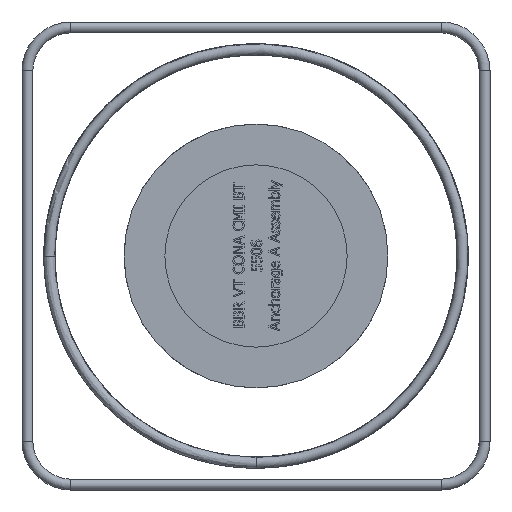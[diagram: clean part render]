
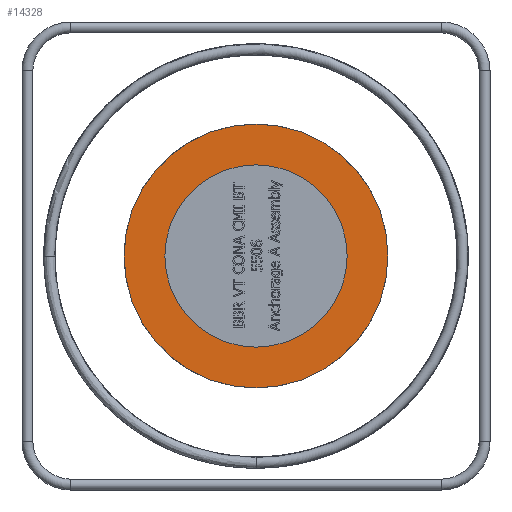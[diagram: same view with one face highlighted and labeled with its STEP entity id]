
A CAD part, left-side view. The second image highlights one B-rep face of the part: STEP entity #14328.
In plain terms, the highlighted planar face has unit normal (-1, 0, 0).
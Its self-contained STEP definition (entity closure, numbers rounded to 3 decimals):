
#3473=PLANE('',#14865);
#3634=FACE_BOUND('',#5253,.T.);
#4379=FACE_OUTER_BOUND('',#5252,.T.);
#5252=EDGE_LOOP('',(#12314));
#5253=EDGE_LOOP('',(#12315));
#5564=CIRCLE('',#14861,167.5);
#5567=CIRCLE('',#14866,242.5);
#6847=VERTEX_POINT('',#24874);
#6854=VERTEX_POINT('',#24948);
#8715=EDGE_CURVE('',#6847,#6847,#5564,.T.);
#8722=EDGE_CURVE('',#6854,#6854,#5567,.T.);
#12314=ORIENTED_EDGE('',*,*,#8722,.T.);
#12315=ORIENTED_EDGE('',*,*,#8715,.T.);
#14328=ADVANCED_FACE('',(#4379,#3634),#3473,.T.);
#14861=AXIS2_PLACEMENT_3D('',#24875,#16935,#16936);
#14865=AXIS2_PLACEMENT_3D('',#24947,#16943,#16944);
#14866=AXIS2_PLACEMENT_3D('',#24949,#16945,#16946);
#16935=DIRECTION('center_axis',(1.,0.,0.));
#16936=DIRECTION('ref_axis',(0.,1.,0.));
#16943=DIRECTION('center_axis',(-1.,0.,0.));
#16944=DIRECTION('ref_axis',(0.,0.,1.));
#16945=DIRECTION('center_axis',(-1.,0.,0.));
#16946=DIRECTION('ref_axis',(0.,-1.,0.));
#24874=CARTESIAN_POINT('',(-340.,167.5,0.));
#24875=CARTESIAN_POINT('Origin',(-340.,0.,0.));
#24947=CARTESIAN_POINT('Origin',(-340.,-188.5,0.));
#24948=CARTESIAN_POINT('',(-340.,-242.5,0.));
#24949=CARTESIAN_POINT('Origin',(-340.,0.,0.));
